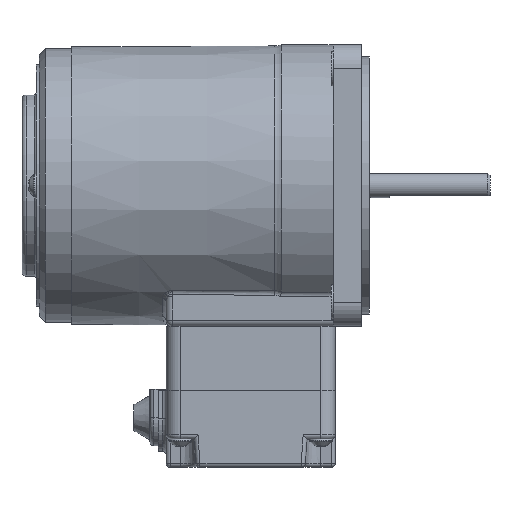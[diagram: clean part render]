
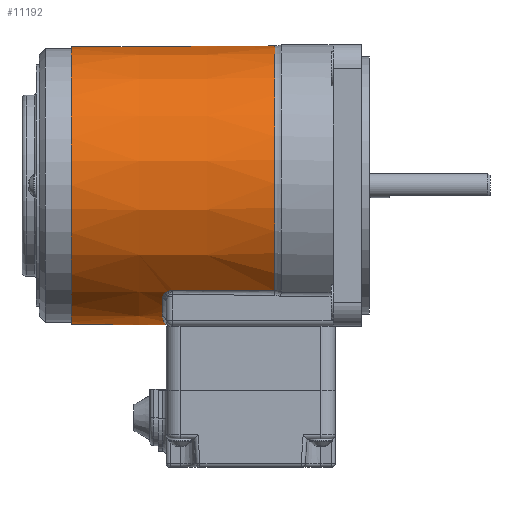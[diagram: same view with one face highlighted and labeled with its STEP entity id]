
A CAD part, top view. The second image highlights one B-rep face of the part: STEP entity #11192.
In plain terms, the highlighted conical face has half-angle 0.227 degrees and reference radius 34.6 mm.
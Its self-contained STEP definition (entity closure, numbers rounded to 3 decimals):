
#99=B_SPLINE_CURVE_WITH_KNOTS('',3,(#18557,#18558,#18559,#18560),
 .UNSPECIFIED.,.F.,.F.,(4,4),(-4.151,-1.604),
 .UNSPECIFIED.);
#106=B_SPLINE_CURVE_WITH_KNOTS('',3,(#18635,#18636,#18637,#18638),
 .UNSPECIFIED.,.F.,.F.,(4,4),(-5.195,-2.649),
 .UNSPECIFIED.);
#114=B_SPLINE_CURVE_WITH_KNOTS('',3,(#18759,#18760,#18761,#18762,#18763,
#18764,#18765,#18766),.UNSPECIFIED.,.F.,.F.,(4,1,1,2,4),(-0.126,
-0.076,-0.051,0.,0.),
 .UNSPECIFIED.);
#115=B_SPLINE_CURVE_WITH_KNOTS('',3,(#18768,#18769,#18770,#18771),
 .UNSPECIFIED.,.F.,.F.,(4,4),(-0.11,0.),
 .UNSPECIFIED.);
#116=B_SPLINE_CURVE_WITH_KNOTS('',3,(#18773,#18774,#18775,#18776),
 .UNSPECIFIED.,.F.,.F.,(4,4),(-0.215,0.),
 .UNSPECIFIED.);
#117=B_SPLINE_CURVE_WITH_KNOTS('',3,(#18780,#18781,#18782,#18783,#18784,
#18785,#18786,#18787,#18788),.UNSPECIFIED.,.F.,.F.,(4,1,1,1,1,1,4),(-2.459,
-2.108,-1.757,-1.405,-1.054,
-0.351,0.),.UNSPECIFIED.);
#118=B_SPLINE_CURVE_WITH_KNOTS('',3,(#18792,#18793,#18794,#18795),
 .UNSPECIFIED.,.F.,.F.,(4,4),(-0.215,0.),
 .UNSPECIFIED.);
#119=B_SPLINE_CURVE_WITH_KNOTS('',3,(#18797,#18798,#18799,#18800),
 .UNSPECIFIED.,.F.,.F.,(4,4),(0.,0.11),.UNSPECIFIED.);
#120=B_SPLINE_CURVE_WITH_KNOTS('',3,(#18801,#18802,#18803,#18804,#18805,
#18806,#18807,#18808),.UNSPECIFIED.,.F.,.F.,(4,2,1,1,4),(-0.127,
-0.126,-0.076,-0.051,0.),
 .UNSPECIFIED.);
#262=CONICAL_SURFACE('',#12266,34.6,0.227);
#537=FACE_BOUND('',#2296,.T.);
#984=CIRCLE('',#12220,34.5);
#994=CIRCLE('',#12236,34.7);
#1010=CIRCLE('',#12267,34.589);
#1011=CIRCLE('',#12268,34.589);
#1600=FACE_OUTER_BOUND('',#2295,.T.);
#2295=EDGE_LOOP('',(#9144,#9145,#9146,#9147,#9148,#9149,#9150,#9151,#9152,
#9153,#9154,#9155));
#2296=EDGE_LOOP('',(#9156));
#4975=VERTEX_POINT('',#18464);
#4986=VERTEX_POINT('',#18511);
#4989=VERTEX_POINT('',#18552);
#4997=VERTEX_POINT('',#18583);
#5001=VERTEX_POINT('',#18621);
#5016=VERTEX_POINT('',#18758);
#5017=VERTEX_POINT('',#18767);
#5018=VERTEX_POINT('',#18772);
#5019=VERTEX_POINT('',#18777);
#5020=VERTEX_POINT('',#18779);
#5021=VERTEX_POINT('',#18789);
#5022=VERTEX_POINT('',#18791);
#5023=VERTEX_POINT('',#18796);
#6381=EDGE_CURVE('',#4975,#4975,#984,.T.);
#6397=EDGE_CURVE('',#4989,#4986,#99,.T.);
#6408=EDGE_CURVE('',#4986,#4997,#994,.T.);
#6415=EDGE_CURVE('',#4997,#5001,#106,.T.);
#6446=EDGE_CURVE('',#5016,#4989,#114,.T.);
#6447=EDGE_CURVE('',#5017,#5016,#115,.T.);
#6448=EDGE_CURVE('',#5018,#5017,#116,.T.);
#6449=EDGE_CURVE('',#5019,#5018,#1010,.T.);
#6450=EDGE_CURVE('',#5020,#5019,#117,.T.);
#6451=EDGE_CURVE('',#5021,#5020,#1011,.T.);
#6452=EDGE_CURVE('',#5022,#5021,#118,.T.);
#6453=EDGE_CURVE('',#5023,#5022,#119,.T.);
#6454=EDGE_CURVE('',#5001,#5023,#120,.T.);
#9144=ORIENTED_EDGE('',*,*,#6446,.F.);
#9145=ORIENTED_EDGE('',*,*,#6447,.F.);
#9146=ORIENTED_EDGE('',*,*,#6448,.F.);
#9147=ORIENTED_EDGE('',*,*,#6449,.F.);
#9148=ORIENTED_EDGE('',*,*,#6450,.F.);
#9149=ORIENTED_EDGE('',*,*,#6451,.F.);
#9150=ORIENTED_EDGE('',*,*,#6452,.F.);
#9151=ORIENTED_EDGE('',*,*,#6453,.F.);
#9152=ORIENTED_EDGE('',*,*,#6454,.F.);
#9153=ORIENTED_EDGE('',*,*,#6415,.F.);
#9154=ORIENTED_EDGE('',*,*,#6408,.F.);
#9155=ORIENTED_EDGE('',*,*,#6397,.F.);
#9156=ORIENTED_EDGE('',*,*,#6381,.T.);
#11192=ADVANCED_FACE('',(#1600,#537),#262,.T.);
#12220=AXIS2_PLACEMENT_3D('',#18465,#14926,#14927);
#12236=AXIS2_PLACEMENT_3D('',#18588,#14965,#14966);
#12266=AXIS2_PLACEMENT_3D('',#18757,#15035,#15036);
#12267=AXIS2_PLACEMENT_3D('',#18778,#15037,#15038);
#12268=AXIS2_PLACEMENT_3D('',#18790,#15039,#15040);
#14926=DIRECTION('center_axis',(1.,0.,0.));
#14927=DIRECTION('ref_axis',(0.,1.,0.));
#14965=DIRECTION('center_axis',(1.,0.,0.));
#14966=DIRECTION('ref_axis',(0.,1.,0.));
#15035=DIRECTION('center_axis',(1.,0.,0.));
#15036=DIRECTION('ref_axis',(0.,1.,0.));
#15037=DIRECTION('center_axis',(1.,0.,0.));
#15038=DIRECTION('ref_axis',(0.,-0.901,-0.434));
#15039=DIRECTION('center_axis',(1.,0.,0.));
#15040=DIRECTION('ref_axis',(0.,-0.901,0.434));
#18464=CARTESIAN_POINT('',(8.,34.5,0.));
#18465=CARTESIAN_POINT('Origin',(8.,0.,
0.));
#18511=CARTESIAN_POINT('',(58.46,-26.146,-22.814));
#18552=CARTESIAN_POINT('',(32.994,-26.014,-22.811));
#18557=CARTESIAN_POINT('Ctrl Pts',(32.994,-26.014,-22.811));
#18558=CARTESIAN_POINT('Ctrl Pts',(41.483,-26.058,-22.812));
#18559=CARTESIAN_POINT('Ctrl Pts',(49.971,-26.102,-22.813));
#18560=CARTESIAN_POINT('Ctrl Pts',(58.46,-26.146,-22.814));
#18583=CARTESIAN_POINT('',(58.46,-26.146,22.814));
#18588=CARTESIAN_POINT('Origin',(58.46,0.,
0.));
#18621=CARTESIAN_POINT('',(32.994,-26.014,22.811));
#18635=CARTESIAN_POINT('Ctrl Pts',(58.46,-26.146,22.814));
#18636=CARTESIAN_POINT('Ctrl Pts',(49.971,-26.102,22.813));
#18637=CARTESIAN_POINT('Ctrl Pts',(41.483,-26.058,22.812));
#18638=CARTESIAN_POINT('Ctrl Pts',(32.994,-26.014,22.811));
#18757=CARTESIAN_POINT('Origin',(33.23,0.,
0.));
#18758=CARTESIAN_POINT('',(31.869,-26.38,-22.381));
#18759=CARTESIAN_POINT('Ctrl Pts',(31.869,-26.38,-22.381));
#18760=CARTESIAN_POINT('Ctrl Pts',(32.009,-26.321,-22.45));
#18761=CARTESIAN_POINT('Ctrl Pts',(32.229,-26.242,-22.544));
#18762=CARTESIAN_POINT('Ctrl Pts',(32.605,-26.124,-22.683));
#18763=CARTESIAN_POINT('Ctrl Pts',(32.836,-26.059,-22.759));
#18764=CARTESIAN_POINT('Ctrl Pts',(32.991,-26.015,-22.81));
#18765=CARTESIAN_POINT('Ctrl Pts',(32.993,-26.015,-22.811));
#18766=CARTESIAN_POINT('Ctrl Pts',(32.994,-26.014,-22.811));
#18767=CARTESIAN_POINT('',(31.101,-26.865,-21.791));
#18768=CARTESIAN_POINT('Ctrl Pts',(31.101,-26.865,-21.791));
#18769=CARTESIAN_POINT('Ctrl Pts',(31.303,-26.678,-22.022));
#18770=CARTESIAN_POINT('Ctrl Pts',(31.564,-26.506,-22.23));
#18771=CARTESIAN_POINT('Ctrl Pts',(31.869,-26.38,-22.381));
#18772=CARTESIAN_POINT('',(30.504,-28.067,-20.216));
#18773=CARTESIAN_POINT('Ctrl Pts',(30.504,-28.067,-20.216));
#18774=CARTESIAN_POINT('Ctrl Pts',(30.504,-27.66,-20.78));
#18775=CARTESIAN_POINT('Ctrl Pts',(30.705,-27.229,-21.34));
#18776=CARTESIAN_POINT('Ctrl Pts',(31.101,-26.865,-21.791));
#18777=CARTESIAN_POINT('',(30.504,-32.559,-11.676));
#18778=CARTESIAN_POINT('Origin',(30.504,0.,
0.));
#18779=CARTESIAN_POINT('',(30.504,-32.559,11.676));
#18780=CARTESIAN_POINT('Ctrl Pts',(30.504,-32.559,11.676));
#18781=CARTESIAN_POINT('Ctrl Pts',(30.504,-32.943,10.605));
#18782=CARTESIAN_POINT('Ctrl Pts',(30.687,-33.606,8.422));
#18783=CARTESIAN_POINT('Ctrl Pts',(31.172,-34.269,5.101));
#18784=CARTESIAN_POINT('Ctrl Pts',(31.656,-34.607,1.72));
#18785=CARTESIAN_POINT('Ctrl Pts',(31.643,-34.607,-2.848));
#18786=CARTESIAN_POINT('Ctrl Pts',(30.751,-33.937,-7.329));
#18787=CARTESIAN_POINT('Ctrl Pts',(30.504,-32.943,-10.605));
#18788=CARTESIAN_POINT('Ctrl Pts',(30.504,-32.559,-11.676));
#18789=CARTESIAN_POINT('',(30.504,-28.067,20.216));
#18790=CARTESIAN_POINT('Origin',(30.504,0.,
0.));
#18791=CARTESIAN_POINT('',(31.101,-26.865,21.791));
#18792=CARTESIAN_POINT('Ctrl Pts',(31.101,-26.865,21.791));
#18793=CARTESIAN_POINT('Ctrl Pts',(30.705,-27.229,21.34));
#18794=CARTESIAN_POINT('Ctrl Pts',(30.504,-27.66,20.78));
#18795=CARTESIAN_POINT('Ctrl Pts',(30.504,-28.067,20.216));
#18796=CARTESIAN_POINT('',(31.869,-26.38,22.381));
#18797=CARTESIAN_POINT('Ctrl Pts',(31.869,-26.38,22.381));
#18798=CARTESIAN_POINT('Ctrl Pts',(31.564,-26.506,22.23));
#18799=CARTESIAN_POINT('Ctrl Pts',(31.303,-26.678,22.022));
#18800=CARTESIAN_POINT('Ctrl Pts',(31.101,-26.865,21.791));
#18801=CARTESIAN_POINT('Ctrl Pts',(32.994,-26.014,22.811));
#18802=CARTESIAN_POINT('Ctrl Pts',(32.993,-26.015,22.811));
#18803=CARTESIAN_POINT('Ctrl Pts',(32.991,-26.015,22.81));
#18804=CARTESIAN_POINT('Ctrl Pts',(32.836,-26.059,22.759));
#18805=CARTESIAN_POINT('Ctrl Pts',(32.605,-26.124,22.683));
#18806=CARTESIAN_POINT('Ctrl Pts',(32.229,-26.242,22.544));
#18807=CARTESIAN_POINT('Ctrl Pts',(32.009,-26.321,22.45));
#18808=CARTESIAN_POINT('Ctrl Pts',(31.869,-26.38,22.381));
